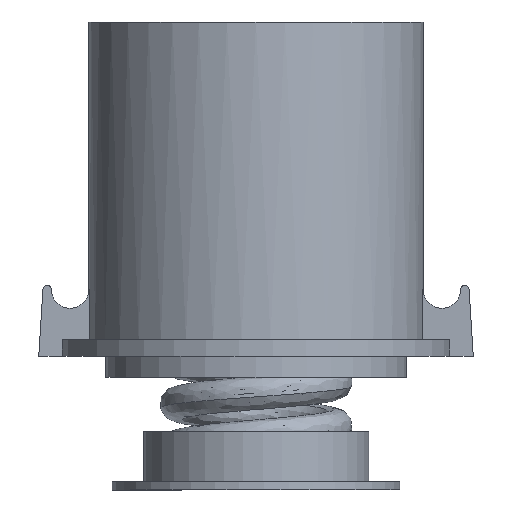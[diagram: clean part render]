
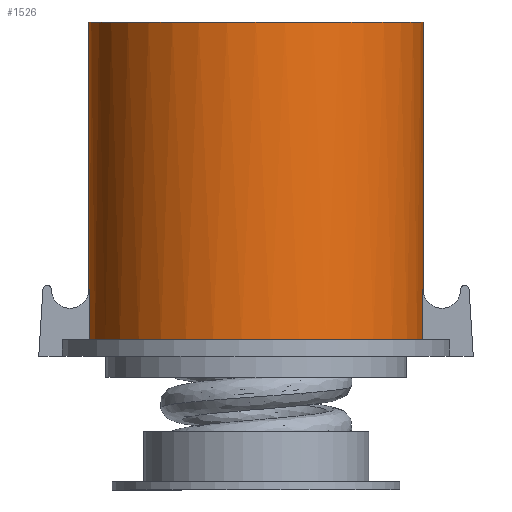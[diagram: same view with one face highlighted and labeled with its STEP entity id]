
A CAD part, front view. The second image highlights one B-rep face of the part: STEP entity #1526.
In plain terms, the highlighted cylindrical face has radius 63.5 mm (diameter 127 mm), a full revolution.
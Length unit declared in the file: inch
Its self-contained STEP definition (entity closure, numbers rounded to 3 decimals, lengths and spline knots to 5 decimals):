
#152=FACE_BOUND('',#509,.T.);
#187=LINE('',#2155,#275);
#197=LINE('',#2187,#285);
#204=LINE('',#2202,#292);
#217=LINE('',#2240,#305);
#275=VECTOR('',#1778,0.75);
#285=VECTOR('',#1806,0.75);
#292=VECTOR('',#1821,0.75);
#305=VECTOR('',#1858,0.75);
#366=CYLINDRICAL_SURFACE('',#1653,2.5);
#407=FACE_OUTER_BOUND('',#508,.T.);
#508=EDGE_LOOP('',(#1186));
#509=EDGE_LOOP('',(#1187,#1188,#1189,#1190,#1191,#1192,#1193,#1194,#1195,
#1196));
#620=CIRCLE('',#1619,2.5);
#623=CIRCLE('',#1624,2.5);
#624=CIRCLE('',#1626,2.5);
#629=CIRCLE('',#1637,2.5);
#630=CIRCLE('',#1639,2.5);
#636=CIRCLE('',#1652,2.5);
#637=CIRCLE('',#1654,2.5);
#736=VERTEX_POINT('',#2146);
#739=VERTEX_POINT('',#2152);
#740=VERTEX_POINT('',#2154);
#745=VERTEX_POINT('',#2166);
#746=VERTEX_POINT('',#2167);
#753=VERTEX_POINT('',#2186);
#756=VERTEX_POINT('',#2199);
#757=VERTEX_POINT('',#2201);
#762=VERTEX_POINT('',#2213);
#763=VERTEX_POINT('',#2214);
#770=VERTEX_POINT('',#2239);
#885=EDGE_CURVE('',#736,#736,#620,.T.);
#888=EDGE_CURVE('',#740,#739,#187,.T.);
#894=EDGE_CURVE('',#745,#746,#623,.T.);
#897=EDGE_CURVE('',#746,#740,#624,.T.);
#904=EDGE_CURVE('',#753,#745,#197,.T.);
#911=EDGE_CURVE('',#757,#756,#204,.T.);
#917=EDGE_CURVE('',#762,#763,#629,.T.);
#920=EDGE_CURVE('',#763,#757,#630,.T.);
#930=EDGE_CURVE('',#770,#762,#217,.T.);
#935=EDGE_CURVE('',#756,#753,#636,.T.);
#936=EDGE_CURVE('',#739,#770,#637,.T.);
#1186=ORIENTED_EDGE('',*,*,#885,.T.);
#1187=ORIENTED_EDGE('',*,*,#888,.T.);
#1188=ORIENTED_EDGE('',*,*,#936,.T.);
#1189=ORIENTED_EDGE('',*,*,#930,.T.);
#1190=ORIENTED_EDGE('',*,*,#917,.T.);
#1191=ORIENTED_EDGE('',*,*,#920,.T.);
#1192=ORIENTED_EDGE('',*,*,#911,.T.);
#1193=ORIENTED_EDGE('',*,*,#935,.T.);
#1194=ORIENTED_EDGE('',*,*,#904,.T.);
#1195=ORIENTED_EDGE('',*,*,#894,.T.);
#1196=ORIENTED_EDGE('',*,*,#897,.T.);
#1526=ADVANCED_FACE('',(#407,#152),#366,.T.);
#1619=AXIS2_PLACEMENT_3D('',#2147,#1772,#1773);
#1624=AXIS2_PLACEMENT_3D('',#2168,#1788,#1789);
#1626=AXIS2_PLACEMENT_3D('',#2173,#1794,#1795);
#1637=AXIS2_PLACEMENT_3D('',#2215,#1831,#1832);
#1639=AXIS2_PLACEMENT_3D('',#2220,#1837,#1838);
#1652=AXIS2_PLACEMENT_3D('',#2248,#1872,#1873);
#1653=AXIS2_PLACEMENT_3D('',#2249,#1874,#1875);
#1654=AXIS2_PLACEMENT_3D('',#2250,#1876,#1877);
#1772=DIRECTION('center_axis',(0.,0.,
-1.));
#1773=DIRECTION('ref_axis',(1.,0.,0.));
#1778=DIRECTION('',(0.,0.,-1.));
#1788=DIRECTION('center_axis',(0.,0.,
1.));
#1789=DIRECTION('ref_axis',(1.,0.,0.));
#1794=DIRECTION('center_axis',(0.,0.,
1.));
#1795=DIRECTION('ref_axis',(1.,0.,0.));
#1806=DIRECTION('',(0.,0.,1.));
#1821=DIRECTION('',(0.,0.,-1.));
#1831=DIRECTION('center_axis',(0.,0.,
1.));
#1832=DIRECTION('ref_axis',(1.,0.,0.));
#1837=DIRECTION('center_axis',(0.,0.,
1.));
#1838=DIRECTION('ref_axis',(1.,0.,0.));
#1858=DIRECTION('',(0.,0.,1.));
#1872=DIRECTION('center_axis',(0.,0.,
1.));
#1873=DIRECTION('ref_axis',(1.,0.,0.));
#1874=DIRECTION('center_axis',(0.,0.,
-1.));
#1875=DIRECTION('ref_axis',(1.,0.,0.));
#1876=DIRECTION('center_axis',(0.,0.,
1.));
#1877=DIRECTION('ref_axis',(1.,0.,0.));
#2146=CARTESIAN_POINT('',(-2.5,0.,7.));
#2147=CARTESIAN_POINT('Origin',(0.,0.,
7.));
#2152=CARTESIAN_POINT('',(2.48747,0.25,2.25));
#2154=CARTESIAN_POINT('',(2.48747,0.25,3.));
#2155=CARTESIAN_POINT('',(2.48747,0.25,8.));
#2166=CARTESIAN_POINT('',(2.48747,-0.25,3.));
#2167=CARTESIAN_POINT('',(2.5,0.,3.));
#2168=CARTESIAN_POINT('Origin',(0.,0.,
3.));
#2173=CARTESIAN_POINT('Origin',(0.,0.,
3.));
#2186=CARTESIAN_POINT('',(2.48747,-0.25,2.25));
#2187=CARTESIAN_POINT('',(2.48747,-0.25,8.));
#2199=CARTESIAN_POINT('',(-2.48747,-0.25,2.25));
#2201=CARTESIAN_POINT('',(-2.48747,-0.25,3.));
#2202=CARTESIAN_POINT('',(-2.48747,-0.25,8.));
#2213=CARTESIAN_POINT('',(-2.48747,0.25,3.));
#2214=CARTESIAN_POINT('',(-2.5,0.,3.));
#2215=CARTESIAN_POINT('Origin',(0.,0.,
3.));
#2220=CARTESIAN_POINT('Origin',(0.,0.,
3.));
#2239=CARTESIAN_POINT('',(-2.48747,0.25,2.25));
#2240=CARTESIAN_POINT('',(-2.48747,0.25,8.));
#2248=CARTESIAN_POINT('Origin',(0.,0.,
2.25));
#2249=CARTESIAN_POINT('Origin',(0.,0.,
8.));
#2250=CARTESIAN_POINT('Origin',(0.,0.,
2.25));
